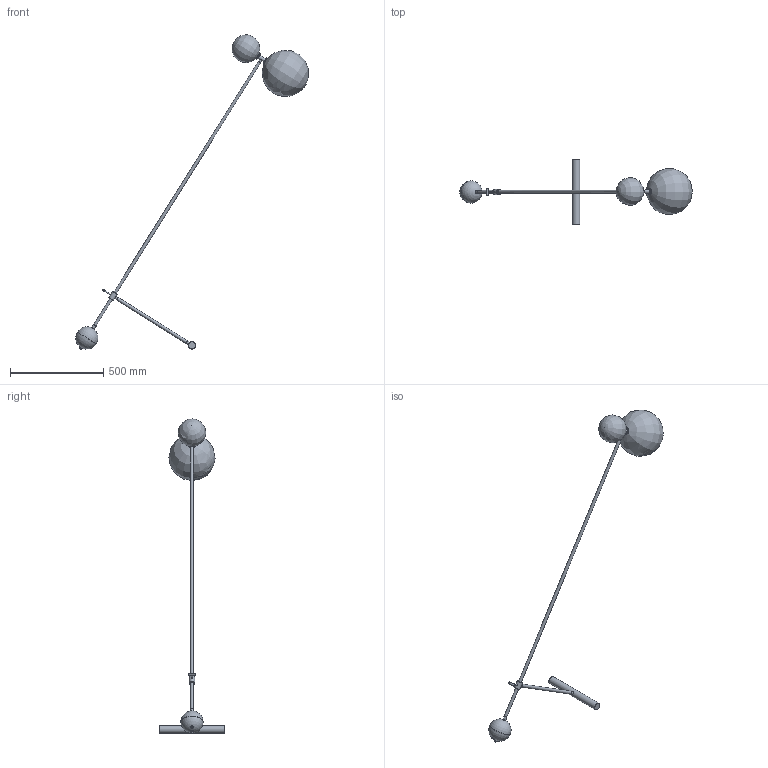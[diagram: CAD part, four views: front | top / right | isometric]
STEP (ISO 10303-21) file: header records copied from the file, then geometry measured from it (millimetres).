
FILE_DESCRIPTION(/* description */ (''),/* implementation_level */ '2;1');
FILE_NAME(/* name */ 'T:\B062 Zosia Floor Lamp\Pliki bryłowe handlowe\B062 Zosia.stp',/* time_stamp */ '2022-01-18T09:20:26+01:00',/* author */ ('Mariusz Awariusz'),/* organization */ (''),/* preprocessor_version */ 'ST-DEVELOPER v18.1',/* originating_system */ 'Autodesk Inventor 2022',/* authorisation */ '');
FILE_SCHEMA (('AUTOMOTIVE_DESIGN { 1 0 10303 214 3 1 1 }'));
Length unit declared in the file: millimetre
Products named in the file (1): B062 Zosia Floor Lamp CE V5_jako częśc
Bounding box: 1249.04 x 350 x 1689.33 mm (x, y, z)
Volume: 1979912.2 mm3; surface area: 769300.9 mm2
Topology: 1 solids, 5 shells, 135 faces, 304 edges, 195 vertices
Faces by surface type: cylinder 43, plane 43, cone 28, torus 10, sphere 6, bspline 5
Full cylindrical faces by diameter (mm): 2.693 x1, 3 x4, 3.4 x3, 5 x2, 5.5 x1, 6 x1, 9 x1, 10 x3, 13 x2, 14 x1, 16 x7, 20 x3, 25.221 x2, 30 x1, 33 x2, 35 x2, 40 x1
Entity records: 4366 total; most frequent: CARTESIAN_POINT 1266, DIRECTION 690, ORIENTED_EDGE 600, AXIS2_PLACEMENT_3D 309, EDGE_CURVE 300, VERTEX_POINT 195, CIRCLE 178, EDGE_LOOP 164
